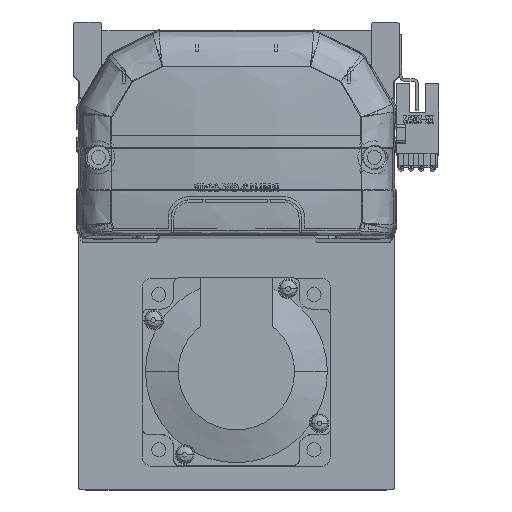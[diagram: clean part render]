
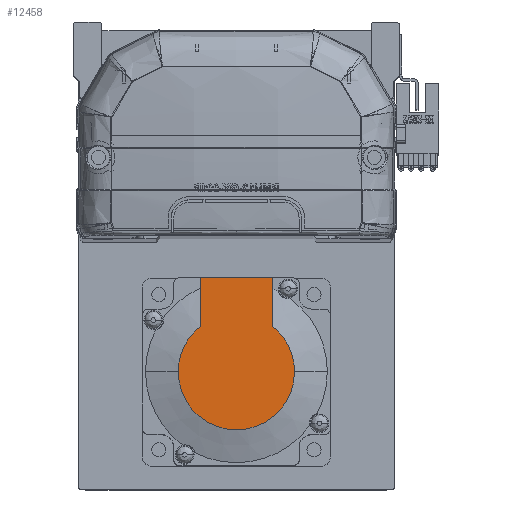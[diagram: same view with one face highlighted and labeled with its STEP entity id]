
A CAD part, top view. The second image highlights one B-rep face of the part: STEP entity #12458.
In plain terms, the highlighted planar face has unit normal (0, 0, 1) as drawn and (-1, 0, 0) by its records, which use the part's own axes.
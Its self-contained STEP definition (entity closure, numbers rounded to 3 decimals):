
#1099 = VERTEX_POINT ( 'NONE', #53450 ) ;
#1821 = CIRCLE ( 'NONE', #56938, 18.538 ) ;
#3783 = AXIS2_PLACEMENT_3D ( 'NONE', #5757, #32835, #42485 ) ;
#4551 = VERTEX_POINT ( 'NONE', #42720 ) ;
#5755 = VERTEX_POINT ( 'NONE', #22017 ) ;
#5757 = CARTESIAN_POINT ( 'NONE',  ( -79., -9.269, 0. ) ) ;
#6096 = EDGE_CURVE ( 'NONE', #5755, #52363, #22632, .T. ) ;
#6440 = ORIENTED_EDGE ( 'NONE', *, *, #36126, .F. ) ;
#6926 = EDGE_CURVE ( 'NONE', #1099, #52363, #20365, .T. ) ;
#12458 = ADVANCED_FACE ( 'NONE', ( #49407 ), #33426, .T. ) ;
#12551 = ORIENTED_EDGE ( 'NONE', *, *, #25117, .T. ) ;
#14013 = DIRECTION ( 'NONE',  ( 0., 0., -1. ) ) ;
#14769 = CARTESIAN_POINT ( 'NONE',  ( -79., 0., 0. ) ) ;
#16620 = VECTOR ( 'NONE', #31216, 1000. ) ;
#17662 = VERTEX_POINT ( 'NONE', #22383 ) ;
#17818 = EDGE_LOOP ( 'NONE', ( #12551, #18859, #55635, #37309, #42208, #6440 ) ) ;
#18023 = CARTESIAN_POINT ( 'NONE',  ( -79., 0., 0. ) ) ;
#18859 = ORIENTED_EDGE ( 'NONE', *, *, #27476, .T. ) ;
#20365 = CIRCLE ( 'NONE', #31957, 18.538 ) ;
#21434 = CARTESIAN_POINT ( 'NONE',  ( -79., -9.269, -11.45 ) ) ;
#22017 = CARTESIAN_POINT ( 'NONE',  ( -79., 30., 11.45 ) ) ;
#22383 = CARTESIAN_POINT ( 'NONE',  ( -79., 0., -18.538 ) ) ;
#22632 = LINE ( 'NONE', #58602, #59348 ) ;
#24416 = EDGE_CURVE ( 'NONE', #17662, #1099, #1821, .T. ) ;
#25117 = EDGE_CURVE ( 'NONE', #4551, #48650, #56256, .T. ) ;
#27476 = EDGE_CURVE ( 'NONE', #48650, #17662, #45201, .T. ) ;
#31216 = DIRECTION ( 'NONE',  ( 0., 0., 1. ) ) ;
#31957 = AXIS2_PLACEMENT_3D ( 'NONE', #52163, #56800, #52761 ) ;
#32835 = DIRECTION ( 'NONE',  ( -1., 0., 0. ) ) ;
#33426 = PLANE ( 'NONE',  #3783 ) ;
#35113 = CARTESIAN_POINT ( 'NONE',  ( -79., 14.579, -11.45 ) ) ;
#35276 = LINE ( 'NONE', #35859, #16620 ) ;
#35614 = DIRECTION ( 'NONE',  ( 0., -1., 0. ) ) ;
#35859 = CARTESIAN_POINT ( 'NONE',  ( -79., 30., 27. ) ) ;
#36126 = EDGE_CURVE ( 'NONE', #4551, #5755, #35276, .T. ) ;
#36694 = DIRECTION ( 'NONE',  ( -1., 0., 0. ) ) ;
#37309 = ORIENTED_EDGE ( 'NONE', *, *, #6926, .T. ) ;
#42208 = ORIENTED_EDGE ( 'NONE', *, *, #6096, .F. ) ;
#42485 = DIRECTION ( 'NONE',  ( 0., 0., 1. ) ) ;
#42720 = CARTESIAN_POINT ( 'NONE',  ( -79., 30., -11.45 ) ) ;
#43961 = VECTOR ( 'NONE', #44514, 1000. ) ;
#44514 = DIRECTION ( 'NONE',  ( 0., -1., 0. ) ) ;
#45201 = CIRCLE ( 'NONE', #47365, 18.538 ) ;
#46899 = DIRECTION ( 'NONE',  ( 0., 0., -1. ) ) ;
#47365 = AXIS2_PLACEMENT_3D ( 'NONE', #18023, #36694, #14013 ) ;
#48650 = VERTEX_POINT ( 'NONE', #35113 ) ;
#49407 = FACE_OUTER_BOUND ( 'NONE', #17818, .T. ) ;
#51152 = DIRECTION ( 'NONE',  ( -1., 0., 0. ) ) ;
#52163 = CARTESIAN_POINT ( 'NONE',  ( -79., 0., 0. ) ) ;
#52363 = VERTEX_POINT ( 'NONE', #53997 ) ;
#52761 = DIRECTION ( 'NONE',  ( 0., 0., -1. ) ) ;
#53450 = CARTESIAN_POINT ( 'NONE',  ( -79., 0., 18.538 ) ) ;
#53997 = CARTESIAN_POINT ( 'NONE',  ( -79., 14.579, 11.45 ) ) ;
#55635 = ORIENTED_EDGE ( 'NONE', *, *, #24416, .T. ) ;
#56256 = LINE ( 'NONE', #21434, #43961 ) ;
#56800 = DIRECTION ( 'NONE',  ( -1., 0., 0. ) ) ;
#56938 = AXIS2_PLACEMENT_3D ( 'NONE', #14769, #51152, #46899 ) ;
#58602 = CARTESIAN_POINT ( 'NONE',  ( -79., 0., 11.45 ) ) ;
#59348 = VECTOR ( 'NONE', #35614, 1000. ) ;
